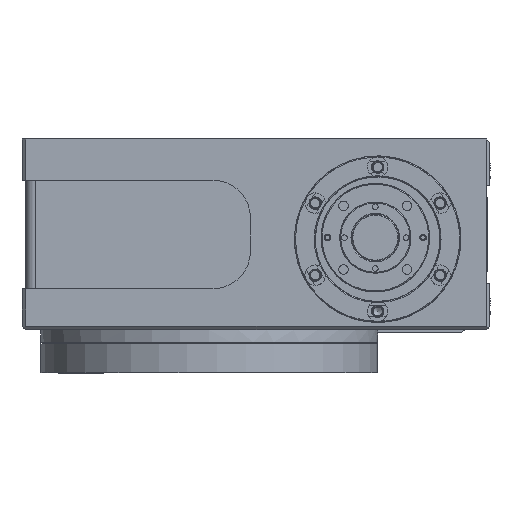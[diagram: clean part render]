
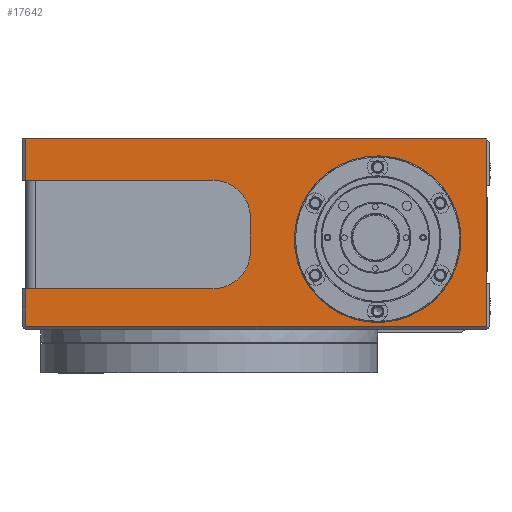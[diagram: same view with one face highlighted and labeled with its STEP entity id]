
A CAD part, left-side view. The second image highlights one B-rep face of the part: STEP entity #17642.
In plain terms, the highlighted planar face has unit normal (-1, 0, 0).
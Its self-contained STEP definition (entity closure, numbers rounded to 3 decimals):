
#1227=PLANE('',#56684);
#7701=LINE('',#77589,#12280);
#7805=LINE('',#78541,#12384);
#7806=LINE('',#78543,#12385);
#7809=LINE('',#78549,#12388);
#7810=LINE('',#78551,#12389);
#7814=LINE('',#78561,#12393);
#7819=LINE('',#78573,#12398);
#7823=LINE('',#78584,#12402);
#7832=LINE('',#78604,#12411);
#7839=LINE('',#78620,#12418);
#12280=VECTOR('',#62002,1.);
#12384=VECTOR('',#62778,1.);
#12385=VECTOR('',#62781,1.);
#12388=VECTOR('',#62786,1.);
#12389=VECTOR('',#62789,1.);
#12393=VECTOR('',#62799,1.);
#12398=VECTOR('',#62810,1.);
#12402=VECTOR('',#62822,1.);
#12411=VECTOR('',#62843,1.);
#12418=VECTOR('',#62862,1.);
#17642=ADVANCED_FACE('',(#20808,#20809),#1227,.F.);
#20808=FACE_BOUND('',#22595,.T.);
#20809=FACE_BOUND('',#22596,.T.);
#22595=EDGE_LOOP('',(#28765));
#22596=EDGE_LOOP('',(#28766,#28767,#28768,#28769,#28770,#28771,#28772,#28773,
#28774,#28775,#28776,#28777));
#28765=ORIENTED_EDGE('',*,*,#47886,.T.);
#28766=ORIENTED_EDGE('',*,*,#48024,.F.);
#28767=ORIENTED_EDGE('',*,*,#48029,.F.);
#28768=ORIENTED_EDGE('',*,*,#48020,.F.);
#28769=ORIENTED_EDGE('',*,*,#48018,.F.);
#28770=ORIENTED_EDGE('',*,*,#48016,.F.);
#28771=ORIENTED_EDGE('',*,*,#48040,.F.);
#28772=ORIENTED_EDGE('',*,*,#48013,.F.);
#28773=ORIENTED_EDGE('',*,*,#48012,.F.);
#28774=ORIENTED_EDGE('',*,*,#48009,.F.);
#28775=ORIENTED_EDGE('',*,*,#47679,.F.);
#28776=ORIENTED_EDGE('',*,*,#48008,.F.);
#28777=ORIENTED_EDGE('',*,*,#48048,.F.);
#42034=VERTEX_POINT('',#77588);
#42035=VERTEX_POINT('',#77590);
#42238=VERTEX_POINT('',#78235);
#42340=VERTEX_POINT('',#78511);
#42351=VERTEX_POINT('',#78544);
#42352=VERTEX_POINT('',#78548);
#42353=VERTEX_POINT('',#78552);
#42354=VERTEX_POINT('',#78556);
#42355=VERTEX_POINT('',#78558);
#42356=VERTEX_POINT('',#78562);
#42357=VERTEX_POINT('',#78566);
#42358=VERTEX_POINT('',#78570);
#42359=VERTEX_POINT('',#78572);
#47679=EDGE_CURVE('',#42034,#42035,#7701,.T.);
#47886=EDGE_CURVE('',#42238,#42238,#54363,.T.);
#48008=EDGE_CURVE('',#42340,#42034,#7805,.T.);
#48009=EDGE_CURVE('',#42035,#42351,#7806,.T.);
#48012=EDGE_CURVE('',#42351,#42352,#7809,.T.);
#48013=EDGE_CURVE('',#42352,#42353,#7810,.T.);
#48016=EDGE_CURVE('',#42354,#42355,#54438,.T.);
#48018=EDGE_CURVE('',#42355,#42356,#7814,.T.);
#48020=EDGE_CURVE('',#42356,#42357,#54439,.T.);
#48024=EDGE_CURVE('',#42359,#42358,#7819,.T.);
#48029=EDGE_CURVE('',#42357,#42359,#7823,.T.);
#48040=EDGE_CURVE('',#42353,#42354,#7832,.T.);
#48048=EDGE_CURVE('',#42358,#42340,#7839,.T.);
#54363=CIRCLE('',#56509,44.5);
#54438=CIRCLE('',#56660,20.);
#54439=CIRCLE('',#56663,20.);
#56509=AXIS2_PLACEMENT_3D('',#78234,#62437,#62438);
#56660=AXIS2_PLACEMENT_3D('',#78557,#62794,#62795);
#56663=AXIS2_PLACEMENT_3D('',#78565,#62803,#62804);
#56684=AXIS2_PLACEMENT_3D('',#78626,#62870,#62871);
#62002=DIRECTION('',(0.,0.,-1.));
#62437=DIRECTION('',(1.,0.,0.));
#62438=DIRECTION('',(0.,-1.,0.));
#62778=DIRECTION('',(0.,0.,-1.));
#62781=DIRECTION('',(0.,0.,-1.));
#62786=DIRECTION('',(0.,1.,0.));
#62789=DIRECTION('',(0.,0.,1.));
#62794=DIRECTION('',(-1.,0.,0.));
#62795=DIRECTION('',(0.,-1.,0.));
#62799=DIRECTION('',(0.,0.,1.));
#62803=DIRECTION('',(-1.,0.,0.));
#62804=DIRECTION('',(0.,-1.,0.));
#62810=DIRECTION('',(0.,0.,1.));
#62822=DIRECTION('',(0.,1.,0.));
#62843=DIRECTION('',(0.,-1.,0.));
#62862=DIRECTION('',(0.,-1.,0.));
#62870=DIRECTION('',(1.,0.,0.));
#62871=DIRECTION('',(0.,-1.,0.));
#77588=CARTESIAN_POINT('',(-24.415,-19.562,245.615));
#77589=CARTESIAN_POINT('',(-24.415,-19.562,268.615));
#77590=CARTESIAN_POINT('',(-24.415,-19.562,193.615));
#78234=CARTESIAN_POINT('',(-24.415,38.438,217.115));
#78235=CARTESIAN_POINT('',(-24.415,-6.062,217.115));
#78511=CARTESIAN_POINT('',(-24.415,-19.562,270.615));
#78541=CARTESIAN_POINT('',(-24.415,-19.562,268.615));
#78543=CARTESIAN_POINT('',(-24.415,-19.562,268.615));
#78544=CARTESIAN_POINT('',(-24.415,-19.562,170.615));
#78548=CARTESIAN_POINT('',(-24.415,226.438,170.615));
#78549=CARTESIAN_POINT('',(-24.415,228.438,170.615));
#78551=CARTESIAN_POINT('',(-24.415,226.438,268.615));
#78552=CARTESIAN_POINT('',(-24.415,226.438,190.615));
#78556=CARTESIAN_POINT('',(-24.415,126.438,190.615));
#78557=CARTESIAN_POINT('',(-24.415,126.438,210.615));
#78558=CARTESIAN_POINT('',(-24.415,106.438,210.615));
#78561=CARTESIAN_POINT('',(-24.415,106.438,268.615));
#78562=CARTESIAN_POINT('',(-24.415,106.438,228.615));
#78565=CARTESIAN_POINT('',(-24.415,126.438,228.615));
#78566=CARTESIAN_POINT('',(-24.415,126.438,248.615));
#78570=CARTESIAN_POINT('',(-24.415,226.438,270.615));
#78572=CARTESIAN_POINT('',(-24.415,226.438,248.615));
#78573=CARTESIAN_POINT('',(-24.415,226.438,268.615));
#78584=CARTESIAN_POINT('',(-24.415,228.438,248.615));
#78604=CARTESIAN_POINT('',(-24.415,228.438,190.615));
#78620=CARTESIAN_POINT('',(-24.415,228.438,270.615));
#78626=CARTESIAN_POINT('',(-24.415,228.438,268.615));
